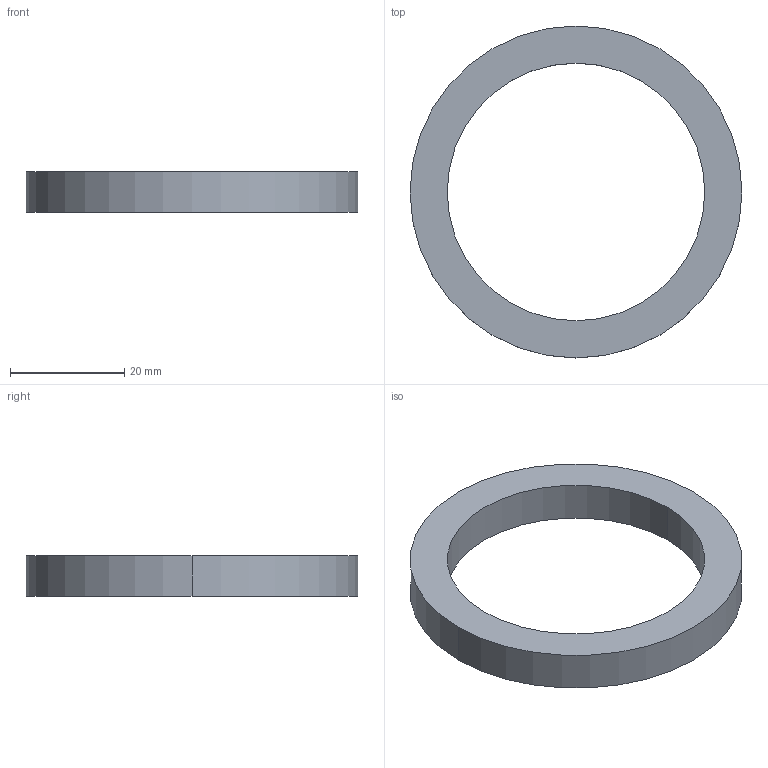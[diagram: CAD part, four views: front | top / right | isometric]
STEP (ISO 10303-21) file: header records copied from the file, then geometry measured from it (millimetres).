
FILE_DESCRIPTION (( 'STEP AP214' ), '1' );
FILE_NAME ('6809_bearing45x58x7.STEP', '2026-02-22T20:13:18', ( '' ), ( '' ), 'SwSTEP 2.0', 'SolidWorks 2024', '' );
FILE_SCHEMA (( 'AUTOMOTIVE_DESIGN' ));
Length unit declared in the file: millimetre
Products named in the file (1): 6809_bearing45x58x7
Bounding box: 58 x 58 x 7 mm (x, y, z)
Volume: 7361.5 mm3; surface area: 4368.4 mm2
Topology: 1 solids, 1 shells, 6 faces, 12 edges, 8 vertices
Faces by surface type: cylinder 4, plane 2
Entity records: 191 total; most frequent: DIRECTION 34, CARTESIAN_POINT 27, ORIENTED_EDGE 24, AXIS2_PLACEMENT_3D 15, EDGE_CURVE 12, VERTEX_POINT 8, CIRCLE 8, EDGE_LOOP 8
